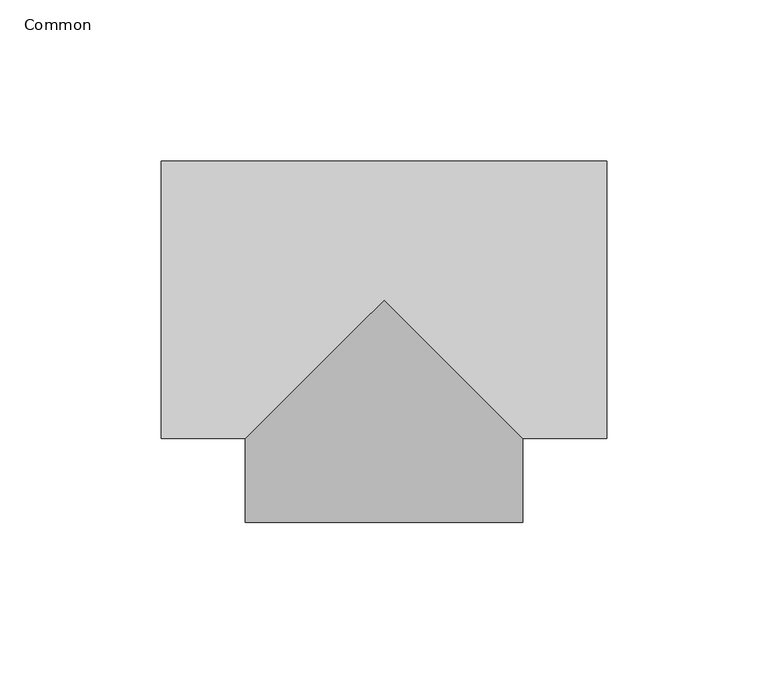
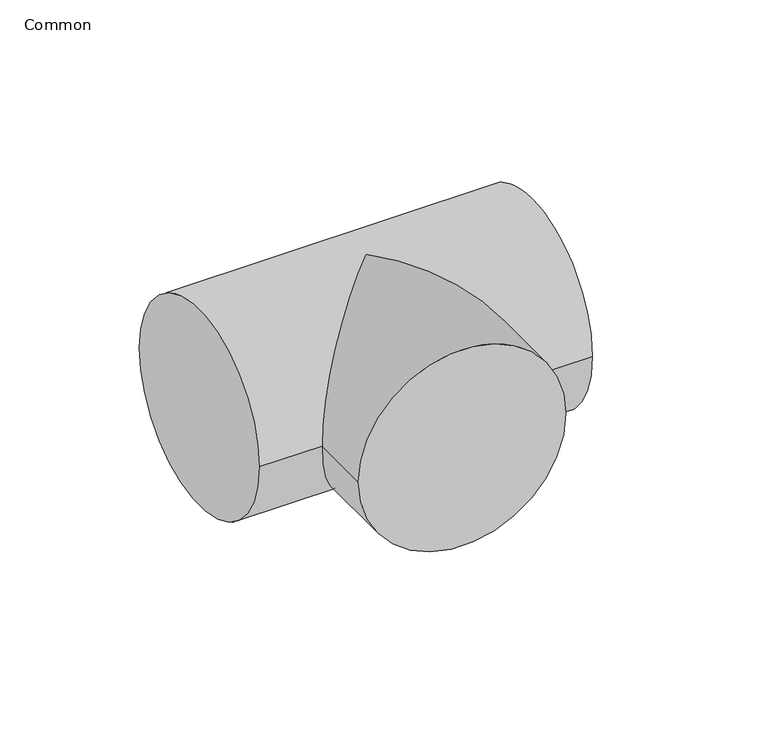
"""IFC4 building model written with IfcOpenShell, lengths in millimetres: pipe fitting geometry, 021_径違いＴ型 : Common."""

from ifc_helpers import new_model, si_unit, frame, origin, place, context, project, spatial, circle_curve, ellipse_curve, source, transform, mapped, element, save
from ifc_brep_helpers import plane_surface, cylinder_surface, advanced_brep


def common_d1d28a45(model_context):
    return source(origin(), model_context, "Body", "AdvancedBrep", [
        advanced_brep(
        [(69.0, -43.0, 0.0), (69.0, 43.0, 0.0), (-69.0, -43.0, 0.0), (-69.0, 43.0, 0.0), (43.0, -43.0, 0.0), (0.0, 0.0, -43.0), (-43.0, -43.0, 0.0), (0.0, 0.0, 43.0), (-43.0, -69.0, 0.0), (43.0, -69.0, 0.0)],
        [
            (0, 1, circle_curve(frame((69.0, 0.0, 0.0), z_axis=(1.0, 0.0, 0.0), x_axis=(0.0, 0.0, -1.0)), 43.0)),
            (1, 0, circle_curve(frame((69.0, 0.0, 0.0), z_axis=(1.0, 0.0, 0.0), x_axis=(0.0, 0.0, 1.0)), 43.0)),
            (2, 3, circle_curve(frame((-69.0, 0.0, 0.0), z_axis=(-1.0, 0.0, 0.0), x_axis=(0.0, 0.0, 1.0)), 43.0)),
            (3, 2, circle_curve(frame((-69.0, 0.0, 0.0), z_axis=(-1.0, 0.0, 0.0), x_axis=(0.0, 0.0, -1.0)), 43.0)),
            (0, 4),
            (4, 5, ellipse_curve(frame((0.0, 0.0, 0.0), z_axis=(0.7071067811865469, 0.7071067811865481, 0.0), x_axis=(0.7071067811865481, -0.7071067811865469, 0.0)), 60.8111832, 43.0)),
            (5, 6, ellipse_curve(frame((0.0, 0.0, 0.0), z_axis=(-0.7071067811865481, 0.7071067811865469, 0.0), x_axis=(0.7071067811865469, 0.7071067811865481, 0.0)), 60.8111832, 43.0)),
            (6, 2),
            (3, 1),
            (6, 7, ellipse_curve(frame((0.0, 0.0, 0.0), z_axis=(-0.7071067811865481, 0.7071067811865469, 0.0), x_axis=(0.7071067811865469, 0.7071067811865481, 0.0)), 60.8111832, 43.0)),
            (7, 4, ellipse_curve(frame((0.0, 0.0, 0.0), z_axis=(0.7071067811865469, 0.7071067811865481, 0.0), x_axis=(0.7071067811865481, -0.7071067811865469, 0.0)), 60.8111832, 43.0)),
            (8, 9, circle_curve(frame((0.0, -69.0, 0.0), z_axis=(0.0, -1.0, 0.0), x_axis=(1.0, 0.0, 0.0)), 43.0)),
            (9, 8, circle_curve(frame((0.0, -69.0, 0.0), z_axis=(0.0, -1.0, 0.0), x_axis=(1.0, 0.0, 0.0)), 43.0)),
            (9, 4),
            (6, 8),
        ],
        [
            plane_surface(frame((69.0, 0.0, 0.0), z_axis=(1.0, 0.0, 0.0), x_axis=(0.0, 0.0, -1.0))),
            plane_surface(frame((-69.0, 0.0, 0.0), z_axis=(-1.0, 0.0, 0.0), x_axis=(0.0, 0.0, -1.0))),
            cylinder_surface(frame((-69.0, 0.0, 0.0), z_axis=(1.0, 0.0, 0.0), x_axis=(0.0, 0.0, -1.0)), 43.0),
            cylinder_surface(frame((-69.0, 0.0, 0.0), z_axis=(1.0, 0.0, 0.0), x_axis=(0.0, 0.0, 1.0)), 43.0),
            plane_surface(frame((0.0, -69.0, 0.0), z_axis=(0.0, -1.0, 0.0), x_axis=(0.0, 0.0, 1.0))),
            cylinder_surface(frame((0.0, 0.0, 0.0), z_axis=(0.0, 1.0, 0.0), x_axis=(1.0, 0.0, 0.0)), 43.0),
        ],
        [
            (0, [[1, 2]]),
            (1, [[3, 4]]),
            (2, [[-1, 5, 6, 7, 8, -4, 9]]),
            (3, [[-2, -9, -3, -8, 10, 11, -5]]),
            (4, [[12, 13]]),
            (5, [[-13, 14, -11, -10, 15]]),
            (5, [[-12, -15, -7, -6, -14]]),
        ],
    ),
    ])


if __name__ == "__main__":
    model = new_model("IFC4")
    model_context = context("Model", 3, world=origin())
    ifc_project = project(units=[si_unit("LENGTHUNIT", "METRE", prefix="MILLI")], contexts=[model_context])
    site = spatial("IfcSite", under=ifc_project)
    building = spatial("IfcBuilding", under=site)
    placement = place(None, origin())
    common_shape = common_d1d28a45(model_context)
    element("IfcPipeFitting", 1, ObjectType="021_径違いＴ型 : Common", at=placement, inside=building, context=model_context, shape_type="MappedRepresentation", body=[
        mapped(common_shape, transform((0.0, 0.0, 0.0), x_axis=(1.0, 0.0, 0.0), y_axis=(0.0, 1.0, 0.0), z_axis=(0.0, 0.0, 1.0))),
    ])
    save(model, "model.ifc")
